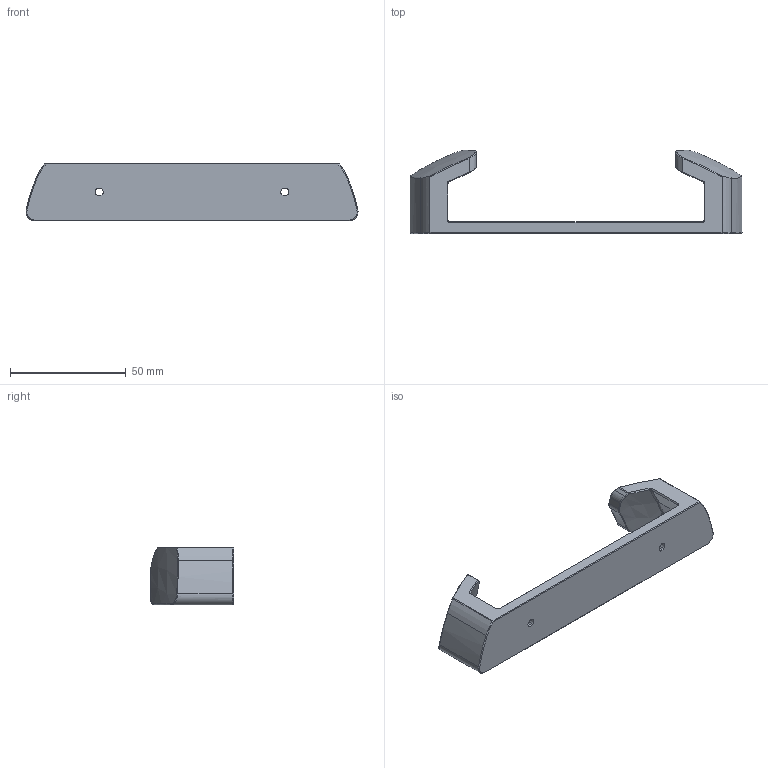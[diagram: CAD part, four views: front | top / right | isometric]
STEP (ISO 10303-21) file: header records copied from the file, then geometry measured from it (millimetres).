
FILE_DESCRIPTION (( 'STEP AP214' ), '1' );
FILE_NAME ('Topfdeckelhalterung 13cm.STEP', '2025-06-14T11:10:54', ( '' ), ( '' ), 'SwSTEP 2.0', 'SolidWorks 2012', '' );
FILE_SCHEMA (( 'AUTOMOTIVE_DESIGN' ));
Length unit declared in the file: millimetre
Products named in the file (1): Topfdeckelhalterung 13cm
Bounding box: 143.12 x 35.82 x 25 mm (x, y, z)
Volume: 29477.6 mm3; surface area: 12985.4 mm2
Topology: 1 solids, 1 shells, 132 faces, 320 edges, 188 vertices
Faces by surface type: bspline 62, plane 27, cylinder 23, cone 10, torus 10
Entity records: 7121 total; most frequent: CARTESIAN_POINT 4548, ORIENTED_EDGE 636, DIRECTION 366, EDGE_CURVE 318, VERTEX_POINT 188, B_SPLINE_CURVE_WITH_KNOTS 164, AXIS2_PLACEMENT_3D 147, EDGE_LOOP 136
